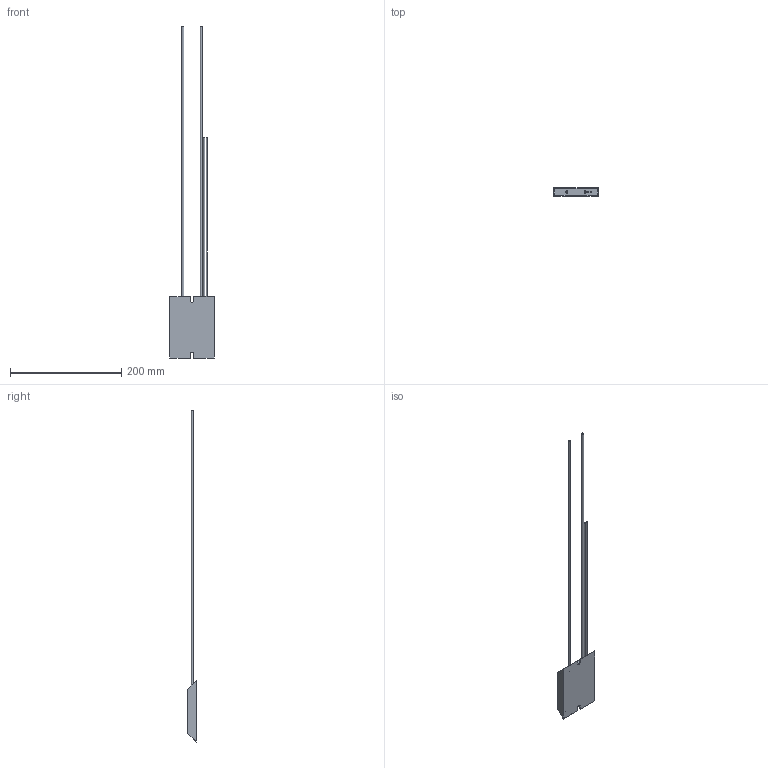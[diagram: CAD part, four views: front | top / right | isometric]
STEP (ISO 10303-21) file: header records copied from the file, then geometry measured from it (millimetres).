
FILE_DESCRIPTION(/* description */ (''),/* implementation_level */ '2;1');
FILE_NAME(/* name */ 'C:\_Vault\Dati\CATALOGO\RFD\RFDVT150.stp',/* time_stamp */ '2014-03-25T10:53:13+01:00',/* author */ ('stefano'),/* organization */ (''),/* preprocessor_version */ 'ST-DEVELOPER v15.2',/* originating_system */ 'Autodesk Inventor 2014',/* authorisation */ '');
FILE_SCHEMA (('AUTOMOTIVE_DESIGN { 1 0 10303 214 3 1 1 }'));
Length unit declared in the file: millimetre
Products named in the file (1): RFDVT150
Bounding box: 80 x 15 x 596.6 mm (x, y, z)
Volume: 118277.6 mm3; surface area: 39942.7 mm2
Topology: 1 solids, 1 shells, 36 faces, 78 edges, 52 vertices
Faces by surface type: plane 26, cylinder 10
Full cylindrical faces by diameter (mm): 1.5 x2, 2 x2, 2.5 x2, 4 x2
Entity records: 1048 total; most frequent: DIRECTION 164, CARTESIAN_POINT 159, ORIENTED_EDGE 140, EDGE_CURVE 70, AXIS2_PLACEMENT_3D 57, EDGE_LOOP 52, VERTEX_POINT 52, LINE 50
